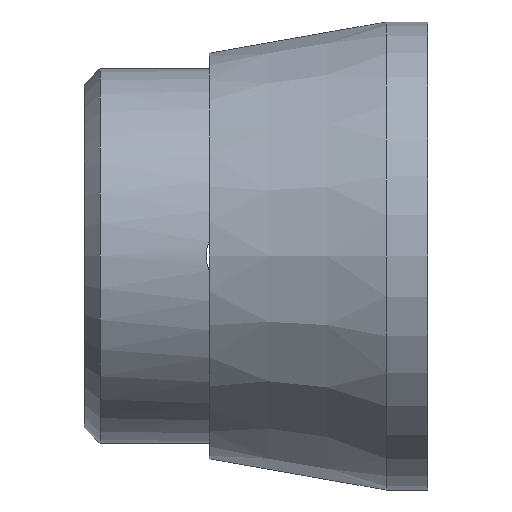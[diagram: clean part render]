
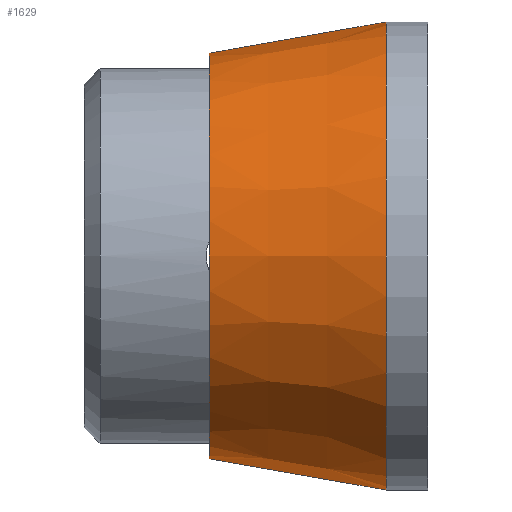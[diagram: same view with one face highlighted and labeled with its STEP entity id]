
A CAD part, left-side view. The second image highlights one B-rep face of the part: STEP entity #1629.
In plain terms, the highlighted conical face has half-angle 10 degrees and reference radius 6.5 mm.
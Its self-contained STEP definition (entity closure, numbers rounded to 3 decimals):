
#103 = DIRECTION ( 'NONE',  ( 0., 0., 1. ) ) ;
#167 = EDGE_CURVE ( 'NONE', #1990, #171, #1281, .T. ) ;
#171 = VERTEX_POINT ( 'NONE', #657 ) ;
#259 = CARTESIAN_POINT ( 'NONE',  ( 0., 1.329, -7.5 ) ) ;
#320 = EDGE_CURVE ( 'NONE', #839, #1513, #1089, .T. ) ;
#374 = EDGE_CURVE ( 'NONE', #1990, #1513, #1025, .T. ) ;
#378 = AXIS2_PLACEMENT_3D ( 'NONE', #1214, #1394, #610 ) ;
#482 = ORIENTED_EDGE ( 'NONE', *, *, #775, .F. ) ;
#502 = DIRECTION ( 'NONE',  ( 0., 1., 0. ) ) ;
#545 = CARTESIAN_POINT ( 'NONE',  ( 0., 7., 6.5 ) ) ;
#610 = DIRECTION ( 'NONE',  ( 0., 0., -1. ) ) ;
#635 = AXIS2_PLACEMENT_3D ( 'NONE', #1344, #1170, #103 ) ;
#642 = DIRECTION ( 'NONE',  ( 0., 0., 1. ) ) ;
#657 = CARTESIAN_POINT ( 'NONE',  ( 0., 7., 6.5 ) ) ;
#691 = CONICAL_SURFACE ( 'NONE', #378, 6.5, 0.175 ) ;
#710 = CARTESIAN_POINT ( 'NONE',  ( 0., 7., -6.5 ) ) ;
#747 = LINE ( 'NONE', #545, #1548 ) ;
#775 = EDGE_CURVE ( 'NONE', #171, #839, #747, .T. ) ;
#839 = VERTEX_POINT ( 'NONE', #1021 ) ;
#912 = CARTESIAN_POINT ( 'NONE',  ( 0., 7., -6.5 ) ) ;
#1021 = CARTESIAN_POINT ( 'NONE',  ( 0., 1.329, 7.5 ) ) ;
#1025 = LINE ( 'NONE', #710, #2009 ) ;
#1089 = CIRCLE ( 'NONE', #635, 7.5 ) ;
#1170 = DIRECTION ( 'NONE',  ( 0., -1., 0. ) ) ;
#1198 = ORIENTED_EDGE ( 'NONE', *, *, #374, .T. ) ;
#1214 = CARTESIAN_POINT ( 'NONE',  ( 0., 7., 0. ) ) ;
#1243 = CARTESIAN_POINT ( 'NONE',  ( 0., 7., 0. ) ) ;
#1281 = CIRCLE ( 'NONE', #1373, 6.5 ) ;
#1286 = DIRECTION ( 'NONE',  ( 0., -0.985, 0.174 ) ) ;
#1344 = CARTESIAN_POINT ( 'NONE',  ( 0., 1.329, 0. ) ) ;
#1356 = ORIENTED_EDGE ( 'NONE', *, *, #167, .F. ) ;
#1373 = AXIS2_PLACEMENT_3D ( 'NONE', #1243, #502, #642 ) ;
#1394 = DIRECTION ( 'NONE',  ( 0., -1., 0. ) ) ;
#1513 = VERTEX_POINT ( 'NONE', #259 ) ;
#1548 = VECTOR ( 'NONE', #1286, 1000. ) ;
#1629 = ADVANCED_FACE ( 'NONE', ( #1813 ), #691, .T. ) ;
#1720 = EDGE_LOOP ( 'NONE', ( #482, #1356, #1198, #1781 ) ) ;
#1781 = ORIENTED_EDGE ( 'NONE', *, *, #320, .F. ) ;
#1813 = FACE_OUTER_BOUND ( 'NONE', #1720, .T. ) ;
#1952 = DIRECTION ( 'NONE',  ( 0., -0.985, -0.174 ) ) ;
#1990 = VERTEX_POINT ( 'NONE', #912 ) ;
#2009 = VECTOR ( 'NONE', #1952, 1000. ) ;
